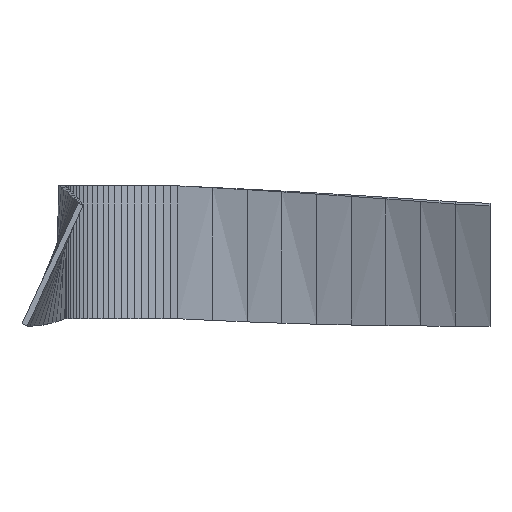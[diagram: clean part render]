
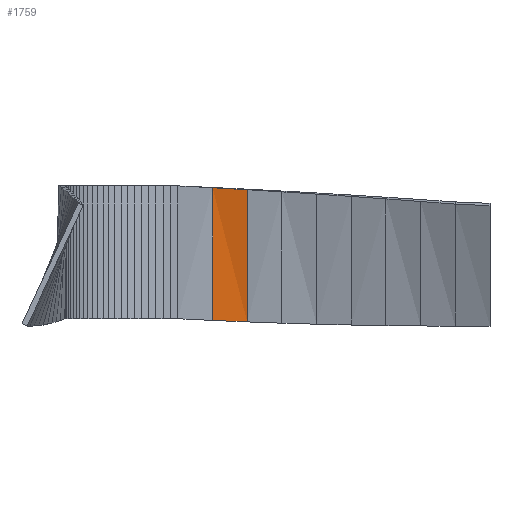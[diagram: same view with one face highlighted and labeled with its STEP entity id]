
A CAD part, left-side view. The second image highlights one B-rep face of the part: STEP entity #1759.
In plain terms, the highlighted free-form (B-spline) face has degree [1, 1] with [2, 2] control points.
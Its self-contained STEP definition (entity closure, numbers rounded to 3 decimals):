
#1376 = B_SPLINE_SURFACE_WITH_KNOTS('',1,1,(
    (#1377,#1378)
    ,(#1379,#1380
    )),.UNSPECIFIED.,.F.,.F.,.F.,(2,2),(2,2),(0.,14.3),(0.,1.),
  .PIECEWISE_BEZIER_KNOTS.);
#1377 = CARTESIAN_POINT('',(171.462,132.87,22.957));
#1378 = CARTESIAN_POINT('',(171.721,136.603,
    23.185));
#1379 = CARTESIAN_POINT('',(173.638,132.87,8.823));
#1380 = CARTESIAN_POINT('',(173.174,136.603,
    8.959));
#1500 = VERTEX_POINT('',#1501);
#1501 = CARTESIAN_POINT('',(171.721,136.603,
    23.185));
#1535 = B_SPLINE_SURFACE_WITH_KNOTS('',1,1,(
    (#1536,#1537)
    ,(#1538,#1539
    )),.UNSPECIFIED.,.F.,.F.,.F.,(2,2),(2,2),(0.,0.6),(0.,1.),
  .PIECEWISE_BEZIER_KNOTS.);
#1536 = CARTESIAN_POINT('',(172.317,136.603,
    23.246));
#1537 = CARTESIAN_POINT('',(172.589,140.337,
    23.43));
#1538 = CARTESIAN_POINT('',(171.721,136.603,
    23.185));
#1539 = CARTESIAN_POINT('',(171.99,140.337,
    23.399));
#1553 = VERTEX_POINT('',#1554);
#1554 = CARTESIAN_POINT('',(173.174,136.603,
    8.959));
#1574 = EDGE_CURVE('',#1500,#1553,#1575,.T.);
#1575 = SURFACE_CURVE('',#1576,(#1580,#1587),.PCURVE_S1.);
#1576 = LINE('',#1577,#1578);
#1577 = CARTESIAN_POINT('',(171.721,136.603,
    23.185));
#1578 = VECTOR('',#1579,1.);
#1579 = DIRECTION('',(0.102,0.,-0.995));
#1580 = PCURVE('',#1376,#1581);
#1581 = DEFINITIONAL_REPRESENTATION('',(#1582),#1586);
#1582 = LINE('',#1583,#1584);
#1583 = CARTESIAN_POINT('',(0.,1.));
#1584 = VECTOR('',#1585,1.);
#1585 = DIRECTION('',(1.,0.));
#1586 = ( GEOMETRIC_REPRESENTATION_CONTEXT(2) 
PARAMETRIC_REPRESENTATION_CONTEXT() REPRESENTATION_CONTEXT('2D SPACE',''
  ) );
#1587 = PCURVE('',#1588,#1593);
#1588 = B_SPLINE_SURFACE_WITH_KNOTS('',1,1,(
    (#1589,#1590)
    ,(#1591,#1592
    )),.UNSPECIFIED.,.F.,.F.,.F.,(2,2),(2,2),(0.,14.3),(0.,1.),
  .PIECEWISE_BEZIER_KNOTS.);
#1589 = CARTESIAN_POINT('',(171.721,136.603,
    23.185));
#1590 = CARTESIAN_POINT('',(171.99,140.337,
    23.399));
#1591 = CARTESIAN_POINT('',(173.174,136.603,
    8.959));
#1592 = CARTESIAN_POINT('',(172.718,140.337,9.118
    ));
#1593 = DEFINITIONAL_REPRESENTATION('',(#1594),#1598);
#1594 = LINE('',#1595,#1596);
#1595 = CARTESIAN_POINT('',(0.,0.));
#1596 = VECTOR('',#1597,1.);
#1597 = DIRECTION('',(1.,0.));
#1598 = ( GEOMETRIC_REPRESENTATION_CONTEXT(2) 
PARAMETRIC_REPRESENTATION_CONTEXT() REPRESENTATION_CONTEXT('2D SPACE',''
  ) );
#1620 = B_SPLINE_SURFACE_WITH_KNOTS('',1,1,(
    (#1621,#1622)
    ,(#1623,#1624
    )),.UNSPECIFIED.,.F.,.F.,.F.,(2,2),(2,2),(0.,0.6),(0.,1.),
  .PIECEWISE_BEZIER_KNOTS.);
#1621 = CARTESIAN_POINT('',(173.174,136.603,
    8.959));
#1622 = CARTESIAN_POINT('',(172.718,140.337,9.118
    ));
#1623 = CARTESIAN_POINT('',(173.771,136.603,
    9.02));
#1624 = CARTESIAN_POINT('',(173.317,140.337,
    9.148));
#1711 = EDGE_CURVE('',#1500,#1712,#1714,.T.);
#1712 = VERTEX_POINT('',#1713);
#1713 = CARTESIAN_POINT('',(171.99,140.337,
    23.399));
#1714 = SURFACE_CURVE('',#1715,(#1718,#1725),.PCURVE_S1.);
#1715 = B_SPLINE_CURVE_WITH_KNOTS('',1,(#1716,#1717),.UNSPECIFIED.,.F.,
  .F.,(2,2),(0.,1.),.PIECEWISE_BEZIER_KNOTS.);
#1716 = CARTESIAN_POINT('',(171.721,136.603,
    23.185));
#1717 = CARTESIAN_POINT('',(171.99,140.337,
    23.399));
#1718 = PCURVE('',#1535,#1719);
#1719 = DEFINITIONAL_REPRESENTATION('',(#1720),#1724);
#1720 = LINE('',#1721,#1722);
#1721 = CARTESIAN_POINT('',(0.6,0.));
#1722 = VECTOR('',#1723,1.);
#1723 = DIRECTION('',(0.,1.));
#1724 = ( GEOMETRIC_REPRESENTATION_CONTEXT(2) 
PARAMETRIC_REPRESENTATION_CONTEXT() REPRESENTATION_CONTEXT('2D SPACE',''
  ) );
#1725 = PCURVE('',#1588,#1726);
#1726 = DEFINITIONAL_REPRESENTATION('',(#1727),#1731);
#1727 = LINE('',#1728,#1729);
#1728 = CARTESIAN_POINT('',(0.,0.));
#1729 = VECTOR('',#1730,1.);
#1730 = DIRECTION('',(0.,1.));
#1731 = ( GEOMETRIC_REPRESENTATION_CONTEXT(2) 
PARAMETRIC_REPRESENTATION_CONTEXT() REPRESENTATION_CONTEXT('2D SPACE',''
  ) );
#1759 = ADVANCED_FACE('',(#1760),#1588,.F.);
#1760 = FACE_BOUND('',#1761,.F.);
#1761 = EDGE_LOOP('',(#1762,#1763,#1785,#1811));
#1762 = ORIENTED_EDGE('',*,*,#1574,.T.);
#1763 = ORIENTED_EDGE('',*,*,#1764,.T.);
#1764 = EDGE_CURVE('',#1553,#1765,#1767,.T.);
#1765 = VERTEX_POINT('',#1766);
#1766 = CARTESIAN_POINT('',(172.718,140.337,9.118
    ));
#1767 = SURFACE_CURVE('',#1768,(#1771,#1778),.PCURVE_S1.);
#1768 = B_SPLINE_CURVE_WITH_KNOTS('',1,(#1769,#1770),.UNSPECIFIED.,.F.,
  .F.,(2,2),(0.,1.),.PIECEWISE_BEZIER_KNOTS.);
#1769 = CARTESIAN_POINT('',(173.174,136.603,
    8.959));
#1770 = CARTESIAN_POINT('',(172.718,140.337,9.118
    ));
#1771 = PCURVE('',#1588,#1772);
#1772 = DEFINITIONAL_REPRESENTATION('',(#1773),#1777);
#1773 = LINE('',#1774,#1775);
#1774 = CARTESIAN_POINT('',(14.3,0.));
#1775 = VECTOR('',#1776,1.);
#1776 = DIRECTION('',(0.,1.));
#1777 = ( GEOMETRIC_REPRESENTATION_CONTEXT(2) 
PARAMETRIC_REPRESENTATION_CONTEXT() REPRESENTATION_CONTEXT('2D SPACE',''
  ) );
#1778 = PCURVE('',#1620,#1779);
#1779 = DEFINITIONAL_REPRESENTATION('',(#1780),#1784);
#1780 = LINE('',#1781,#1782);
#1781 = CARTESIAN_POINT('',(0.,0.));
#1782 = VECTOR('',#1783,1.);
#1783 = DIRECTION('',(0.,1.));
#1784 = ( GEOMETRIC_REPRESENTATION_CONTEXT(2) 
PARAMETRIC_REPRESENTATION_CONTEXT() REPRESENTATION_CONTEXT('2D SPACE',''
  ) );
#1785 = ORIENTED_EDGE('',*,*,#1786,.F.);
#1786 = EDGE_CURVE('',#1712,#1765,#1787,.T.);
#1787 = SURFACE_CURVE('',#1788,(#1792,#1799),.PCURVE_S1.);
#1788 = LINE('',#1789,#1790);
#1789 = CARTESIAN_POINT('',(171.99,140.337,
    23.399));
#1790 = VECTOR('',#1791,1.);
#1791 = DIRECTION('',(0.051,0.,-0.999));
#1792 = PCURVE('',#1588,#1793);
#1793 = DEFINITIONAL_REPRESENTATION('',(#1794),#1798);
#1794 = LINE('',#1795,#1796);
#1795 = CARTESIAN_POINT('',(0.,1.));
#1796 = VECTOR('',#1797,1.);
#1797 = DIRECTION('',(1.,0.));
#1798 = ( GEOMETRIC_REPRESENTATION_CONTEXT(2) 
PARAMETRIC_REPRESENTATION_CONTEXT() REPRESENTATION_CONTEXT('2D SPACE',''
  ) );
#1799 = PCURVE('',#1800,#1805);
#1800 = B_SPLINE_SURFACE_WITH_KNOTS('',1,1,(
    (#1801,#1802)
    ,(#1803,#1804
    )),.UNSPECIFIED.,.F.,.F.,.F.,(2,2),(2,2),(0.,14.3),(0.,1.),
  .PIECEWISE_BEZIER_KNOTS.);
#1801 = CARTESIAN_POINT('',(171.99,140.337,
    23.399));
#1802 = CARTESIAN_POINT('',(172.27,144.07,23.6));
#1803 = CARTESIAN_POINT('',(172.718,140.337,9.118
    ));
#1804 = CARTESIAN_POINT('',(172.27,144.07,9.3));
#1805 = DEFINITIONAL_REPRESENTATION('',(#1806),#1810);
#1806 = LINE('',#1807,#1808);
#1807 = CARTESIAN_POINT('',(0.,0.));
#1808 = VECTOR('',#1809,1.);
#1809 = DIRECTION('',(1.,0.));
#1810 = ( GEOMETRIC_REPRESENTATION_CONTEXT(2) 
PARAMETRIC_REPRESENTATION_CONTEXT() REPRESENTATION_CONTEXT('2D SPACE',''
  ) );
#1811 = ORIENTED_EDGE('',*,*,#1711,.F.);
